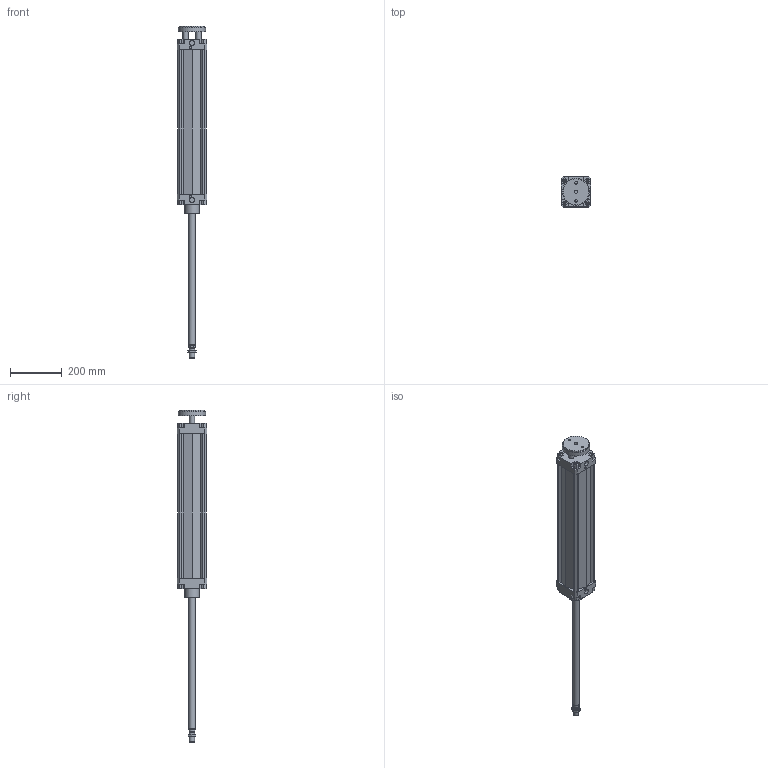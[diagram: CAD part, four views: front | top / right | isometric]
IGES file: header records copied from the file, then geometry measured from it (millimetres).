
Global section: file name: 132#_100_0500_02; native system: Autodesk Inventor 2014; preprocessor: unknown; author: A. Manieri; date: 20161006.163827; units: millimetre
Bounding box: 115 x 115 x 1280 mm (x, y, z)
Volume: 3678084.9 mm3; surface area: 720809.9 mm2
Topology: 3 solids, 3 shells, 220 faces, 589 edges, 397 vertices
Faces by surface type: bspline 220
